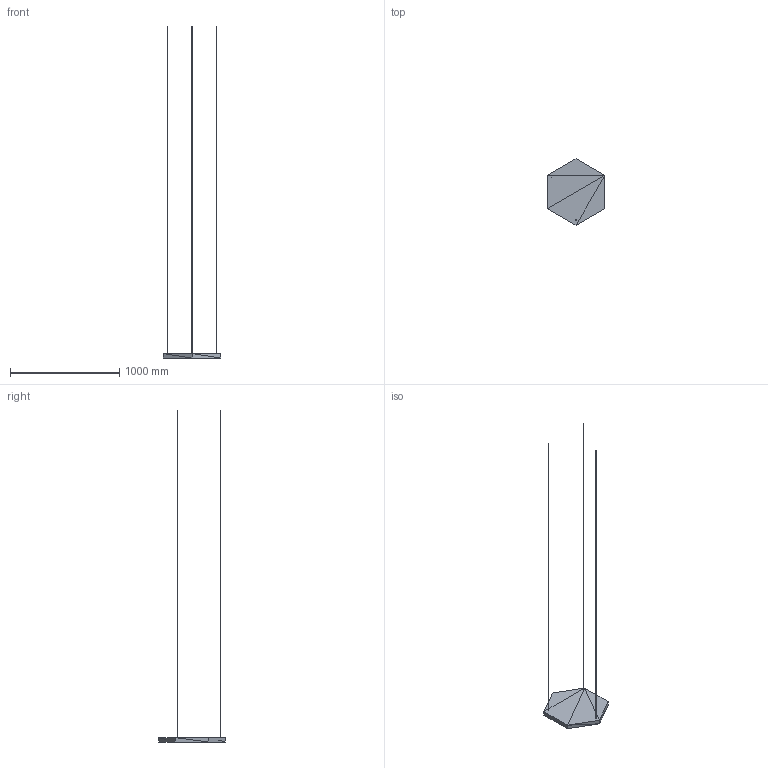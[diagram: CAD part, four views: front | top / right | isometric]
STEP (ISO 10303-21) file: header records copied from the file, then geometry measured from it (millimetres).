
FILE_DESCRIPTION(('ISINAC STEP AP214'),'2;1');
FILE_NAME('ISINAC_HEX.305_40mm_COLGADO','2026-05-03T10:49:19',('ISINAC'),('www.isinac.com'),'ISINAC BIM Generator 1.0','','');
FILE_SCHEMA(('AUTOMOTIVE_DESIGN'));
Length unit declared in the file: millimetre
Products named in the file (1): ISINAC_HEX.305_40mm_COLGADO
Bounding box: 528.28 x 610 x 3040 mm (x, y, z)
Surface area: 637605.9 mm2 (no closed solid volume)
Topology: 0 solids, 80 shells, 80 faces, 240 edges, 240 vertices
Faces by surface type: plane 80
Entity records: 893 total; most frequent: CARTESIAN_POINT 320, DIRECTION 160, POLY_LOOP 80, FACE_OUTER_BOUND 80, AXIS2_PLACEMENT_3D 80, PLANE 80, FACE_SURFACE 80, CLOSED_SHELL 1
